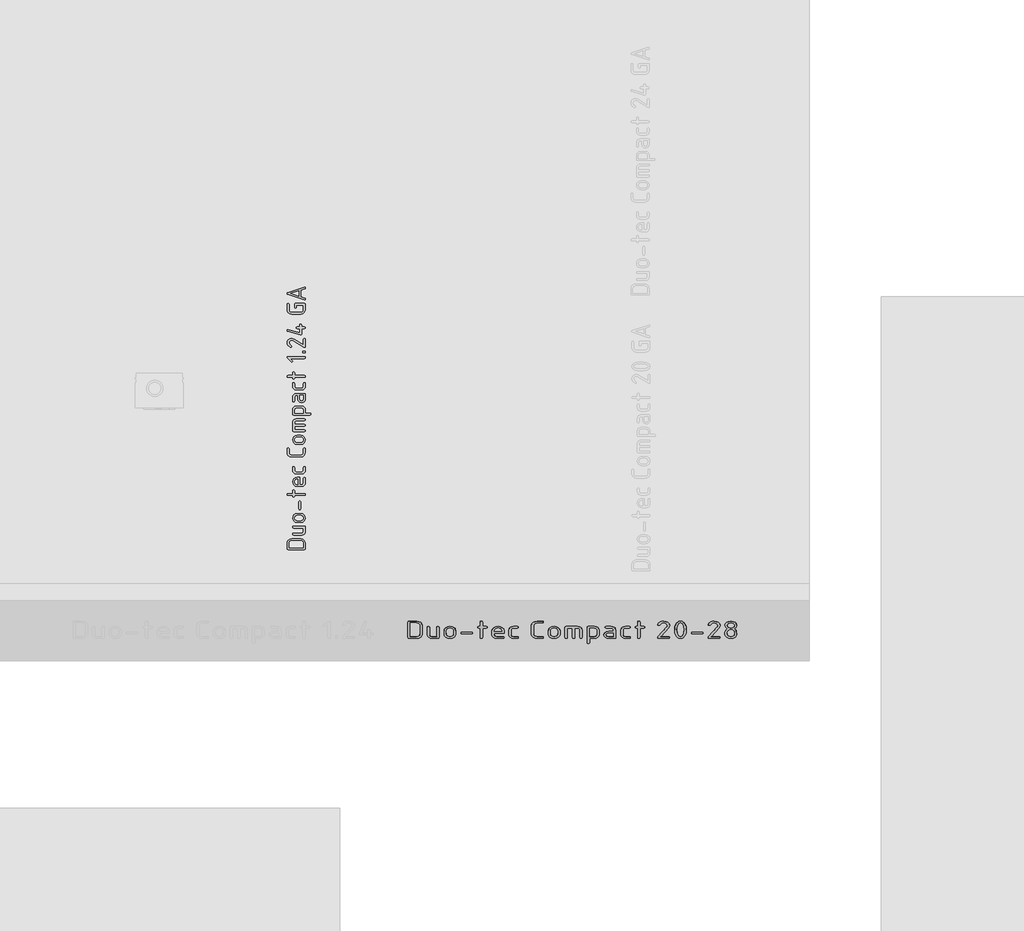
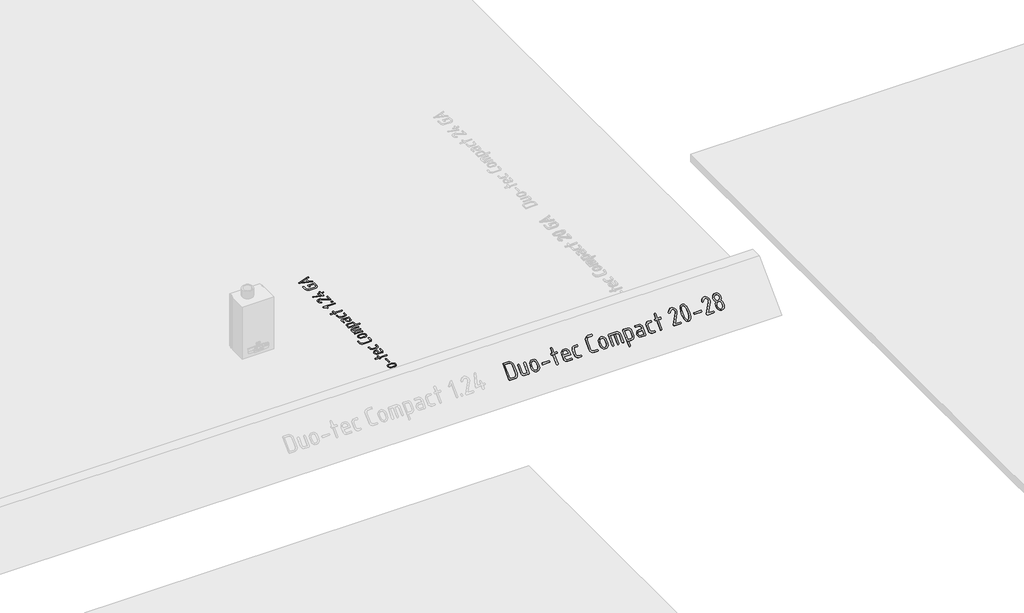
# One storey, part 26 of 37: 2 proxies.
"""IFC4 building model written with IfcOpenShell, lengths in millimetres."""

from ifc_helpers import new_model, si_unit, frame, origin, place, context, project, spatial, polyline, outline, extrude, element, save

model = new_model("IFC4")

# Units and contexts
model_context = context("Model", 3, world=origin())
ifc_project = project(units=[si_unit("LENGTHUNIT", "METRE", prefix="MILLI")], contexts=[model_context])

# Site, building, storey
site = spatial("IfcSite", under=ifc_project)
building = spatial("IfcBuilding", under=site)
storey = spatial("IfcBuildingStorey", under=building, Name="01_Стартовый вид_Площадка", Elevation=0.0)

# Proxies
placement = place(None, origin())
element("IfcBuildingElementProxy", 1, Name="150 мм", ObjectType="150 мм", at=placement, inside=storey, context=model_context, shape_type="SweptSolid", body=[
    extrude(outline(polyline([(22920.5171625, -4358.8892269), (22914.8540229, -4357.0214895), (22912.9663097, -4351.4182773), (22912.9663097, -4306.672483), (22915.6930065, -4292.2000151), (22923.8730971, -4280.1845708), (22936.028372, -4272.0943714), (22950.680622, -4269.3976383), (23026.1092468, -4269.3976383), (23040.6116783, -4272.1243351), (23052.796917, -4280.3044256), (23061.0668986, -4292.3498336), (23063.8235591, -4306.672483), (23063.8235591, -4351.4182773), (23061.9358459, -4357.0214895), (23056.2727063, -4358.8892269), (22920.5171625, -4358.8892269)]), holes=[polyline([(22928.3077249, -4343.5478117), (23048.4821439, -4343.5478117), (23048.4821439, -4306.7923378), (23046.8341403, -4298.3176042), (23041.8901296, -4291.1912372), (23034.6089501, -4286.3520994), (23025.9494404, -4284.7390534), (22950.8404285, -4284.7390534), (22942.1809187, -4286.3520994), (22934.8997392, -4291.1912372), (22929.9557285, -4298.3176042), (22928.3077249, -4306.7923378), (22928.3077249, -4343.5478117)])]), frame((0.0, 0.0, -10.0), z_axis=(0.0, 0.0, 1.0), x_axis=(1.0, 0.0, 0.0)), (0.0, 0.0, 1.0), 10.0),
    extrude(outline(polyline([(22966.4615049, -4164.5646344), (23056.3526095, -4164.5646344), (23061.9558217, -4166.4223839), (23063.8235591, -4171.9956324), (23063.8235591, -4209.0707191), (23061.6561847, -4220.5667926), (23055.1540615, -4230.1252134), (23045.4957617, -4236.5674092), (23033.8598576, -4238.7148079), (22966.4615049, -4238.7148079), (22960.8582927, -4236.797131), (22958.9905553, -4231.0441003), (22960.8582927, -4225.2910696), (22966.4615049, -4223.3733927), (23033.5801964, -4223.3733927), (23044.0674919, -4219.0985712), (23048.4821439, -4208.8709611), (23048.4821439, -4179.9060496), (22966.4615049, -4179.9060496), (22960.8582927, -4177.9883727), (22958.9905553, -4172.235342), (22960.8582927, -4166.4823113), (22966.4615049, -4164.5646344)])), frame((0.0, 0.0, -10.0), z_axis=(0.0, 0.0, 1.0), x_axis=(1.0, 0.0, 0.0)), (0.0, 0.0, 1.0), 10.0),
    extrude(outline(polyline([(23026.388908, -4133.881804), (22996.4252064, -4133.881804), (22982.0326418, -4131.170089), (22969.9372942, -4123.034944), (22961.72724, -4111.0544574), (22958.9905553, -4096.8067173), (22961.6972763, -4082.4091587), (22969.8174394, -4070.4586357), (22981.8828233, -4062.4133818), (22996.4252064, -4059.7316306), (23026.388908, -4059.7316306), (23040.7814726, -4062.4433455), (23052.8768202, -4070.5784905), (23061.0868744, -4082.5589772), (23063.8235591, -4096.8067173), (23061.0868744, -4111.0544574), (23052.8768202, -4123.034944), (23040.7814726, -4131.170089), (23026.388908, -4133.881804)]), holes=[polyline([(23025.9494404, -4075.0730458), (22995.9457872, -4075.0730458), (22987.3162412, -4076.6661159), (22980.0450496, -4081.4453263), (22975.1010388, -4088.4718143), (22973.4530352, -4096.8067173), (22975.1010388, -4105.1416203), (22980.0450496, -4112.1681083), (22987.3162412, -4116.9473187), (22995.9457872, -4118.5403888), (23025.9494404, -4118.5403888), (23034.6588896, -4116.9623005), (23041.9300812, -4112.2280357), (23046.8441282, -4105.2165295), (23048.4821439, -4096.8067173), (23046.8341403, -4088.4718143), (23041.8901296, -4081.4453263), (23034.6089501, -4076.6661159), (23025.9494404, -4075.0730458)])]), frame((0.0, 0.0, -10.0), z_axis=(0.0, 0.0, 1.0), x_axis=(1.0, 0.0, 0.0)), (0.0, 0.0, 1.0), 10.0),
    extrude(outline(polyline([(23025.4700211, -3961.8901571), (23025.4700211, -4021.8974634), (23023.5523442, -4027.5306393), (23017.7993135, -4029.4083646), (23012.0462828, -4027.5306393), (23010.1286059, -4021.8974634), (23010.1286059, -3961.8901571), (23012.0462828, -3956.2569812), (23017.7993135, -3954.3792559), (23023.5523442, -3956.2569812), (23025.4700211, -3961.8901571)])), frame((0.0, 0.0, -10.0), z_axis=(0.0, 0.0, 1.0), x_axis=(1.0, 0.0, 0.0)), (0.0, 0.0, 1.0), 10.0),
    extrude(outline(polyline([(22974.3319705, -3908.8743811), (22974.3319705, -3916.3852823), (22972.4142936, -3922.0184582), (22966.6612629, -3923.8961835), (22960.9082322, -3922.0184582), (22958.9905553, -3916.3852823), (22958.9905553, -3908.8743811), (22920.6370173, -3908.8743811), (22914.8839866, -3906.9567042), (22912.9663097, -3901.2036735), (22914.8839866, -3895.4506428), (22920.6370173, -3893.5329659), (22958.9905553, -3893.5329659), (22958.9905553, -3871.0002623), (22960.9082322, -3865.3970502), (22966.6612629, -3863.5293128), (22972.4142936, -3865.3970502), (22974.3319705, -3871.0002623), (22974.3319705, -3893.5329659), (23056.3526095, -3893.5329659), (23061.9558217, -3895.4506428), (23063.8235591, -3901.2036735), (23061.9558217, -3906.9567042), (23056.3526095, -3908.8743811), (22974.3319705, -3908.8743811)])), frame((0.0, 0.0, -10.0), z_axis=(0.0, 0.0, 1.0), x_axis=(1.0, 0.0, 0.0)), (0.0, 0.0, 1.0), 10.0),
    extrude(outline(polyline([(23017.7993135, -3819.3827925), (23033.1407287, -3819.3827925), (23043.9476371, -3814.9481646), (23048.4821439, -3804.4009417), (23048.4821439, -3766.8863873), (23050.3998208, -3761.2532114), (23056.1528515, -3759.3754861), (23061.9058822, -3761.2532114), (23063.8235591, -3766.8863873), (23063.8235591, -3804.4009417), (23061.6561847, -3816.0568216), (23055.1540615, -3825.854952), (23045.4957617, -3832.5068937), (23033.8598576, -3834.7242077), (22996.4252064, -3834.7242077), (22982.0326418, -3831.9425774), (22969.9372942, -3823.5976865), (22961.72724, -3811.3575144), (22958.9905553, -3796.8900405), (22961.6473368, -3782.3126997), (22969.6176814, -3770.2223461), (22981.4633314, -3762.0872011), (22995.7460292, -3759.3754861), (23017.7993135, -3759.3754861), (23017.7993135, -3819.3827925)]), holes=[polyline([(22972.4542452, -3796.8900405), (22974.1022488, -3805.5195865), (22979.0462595, -3812.7907781), (22986.3174511, -3817.7347889), (22994.9469971, -3819.3827925), (23002.4578983, -3819.3827925), (23002.4578983, -3774.3972885), (22994.9469971, -3774.3972885), (22986.3174511, -3776.0452921), (22979.0462595, -3780.9893029), (22974.1022488, -3788.2604944), (22972.4542452, -3796.8900405)])]), frame((0.0, 0.0, -10.0), z_axis=(0.0, 0.0, 1.0), x_axis=(1.0, 0.0, 0.0)), (0.0, 0.0, 1.0), 10.0),
    extrude(outline(polyline([(22989.1540148, -3714.5497886), (23033.6600996, -3714.5497886), (23044.1074435, -3710.1151608), (23048.4821439, -3699.5679378), (23048.4821439, -3677.0352343), (23050.3998208, -3671.4320221), (23056.1528515, -3669.5642847), (23061.9058822, -3671.4320221), (23063.8235591, -3677.0352343), (23063.8235591, -3699.5679378), (23061.6561847, -3711.2238177), (23055.1540615, -3721.0219481), (23045.4957617, -3727.6738899), (23033.8598576, -3729.8912038), (22988.9542568, -3729.8912038), (22977.3183527, -3727.6738899), (22967.6600529, -3721.0219481), (22961.1579297, -3711.2238177), (22958.9905553, -3699.5679378), (22958.9905553, -3677.0352343), (22960.9082322, -3671.4320221), (22966.6612629, -3669.5642847), (22972.4142936, -3671.4320221), (22974.3319705, -3677.0352343), (22974.3319705, -3699.5679378), (22978.6667193, -3710.1750882), (22989.1540148, -3714.5497886)])), frame((0.0, 0.0, -10.0), z_axis=(0.0, 0.0, 1.0), x_axis=(1.0, 0.0, 0.0)), (0.0, 0.0, 1.0), 10.0),
    extrude(outline(polyline([(22912.9663097, -3521.4237442), (22914.8839866, -3515.7905683), (22920.6370173, -3513.912843), (22926.390048, -3515.7905683), (22928.3077249, -3521.4237442), (22928.3077249, -3551.4273973), (22929.9557285, -3560.1318526), (22934.8997392, -3567.3880624), (22942.1809187, -3572.2871276), (22950.8404285, -3573.9201493), (23025.9494404, -3573.9201493), (23034.6089501, -3572.2721457), (23041.8901296, -3567.328135), (23046.8341403, -3560.0569434), (23048.4821439, -3551.4273973), (23048.4821439, -3521.4237442), (23050.3998208, -3515.7905683), (23056.1528515, -3513.912843), (23061.9058822, -3515.7905683), (23063.8235591, -3521.4237442), (23063.8235591, -3551.4273973), (23061.0668986, -3565.8948712), (23052.796917, -3578.1350433), (23040.6116783, -3586.4799342), (23026.1092468, -3589.2615645), (22950.680622, -3589.2615645), (22936.1781905, -3586.4799342), (22923.9929519, -3578.1350433), (22915.7229702, -3565.8948712), (22912.9663097, -3551.4273973), (22912.9663097, -3521.4237442)])), frame((0.0, 0.0, -10.0), z_axis=(0.0, 0.0, 1.0), x_axis=(1.0, 0.0, 0.0)), (0.0, 0.0, 1.0), 10.0),
    extrude(outline(polyline([(23026.388908, -3484.4285606), (22996.4252064, -3484.4285606), (22982.0326418, -3481.7168457), (22969.9372942, -3473.5817007), (22961.72724, -3461.601214), (22958.9905553, -3447.3534739), (22961.6972763, -3432.9559153), (22969.8174394, -3421.0053923), (22981.8828233, -3412.9601385), (22996.4252064, -3410.2783872), (23026.388908, -3410.2783872), (23040.7814726, -3412.9901022), (23052.8768202, -3421.1252472), (23061.0868744, -3433.1057338), (23063.8235591, -3447.3534739), (23061.0868744, -3461.601214), (23052.8768202, -3473.5817007), (23040.7814726, -3481.7168457), (23026.388908, -3484.4285606)]), holes=[polyline([(23025.9494404, -3425.6198024), (22995.9457872, -3425.6198024), (22987.3162412, -3427.2128725), (22980.0450496, -3431.9920829), (22975.1010388, -3439.0185709), (22973.4530352, -3447.3534739), (22975.1010388, -3455.6883769), (22980.0450496, -3462.7148649), (22987.3162412, -3467.4940753), (22995.9457872, -3469.0871454), (23025.9494404, -3469.0871454), (23034.6588896, -3467.5090572), (23041.9300812, -3462.7747923), (23046.8441282, -3455.7632862), (23048.4821439, -3447.3534739), (23046.8341403, -3439.0185709), (23041.8901296, -3431.9920829), (23034.6089501, -3427.2128725), (23025.9494404, -3425.6198024)])]), frame((0.0, 0.0, -10.0), z_axis=(0.0, 0.0, 1.0), x_axis=(1.0, 0.0, 0.0)), (0.0, 0.0, 1.0), 10.0),
    extrude(outline(polyline([(22958.9905553, -3371.9248492), (22958.9905553, -3302.8884808), (22961.1579297, -3290.9878973), (22967.6600529, -3281.0948819), (22977.3183527, -3274.4279583), (22988.9542568, -3272.2056504), (23056.3526095, -3272.2056504), (23061.9558217, -3274.1233273), (23063.8235591, -3279.876358), (23061.9558217, -3285.6293887), (23056.3526095, -3287.5470656), (22989.2339181, -3287.5470656), (22978.6267677, -3291.9617176), (22974.3319705, -3302.8884808), (22974.3319705, -3318.229896), (23056.3526095, -3318.229896), (23061.9558217, -3320.1475729), (23063.8235591, -3325.9006036), (23061.9558217, -3331.6536343), (23056.3526095, -3333.5713112), (22974.3319705, -3333.5713112), (22974.3319705, -3364.2541416), (23056.3526095, -3364.2541416), (23061.9558217, -3366.1718185), (23063.8235591, -3371.9248492), (23061.9558217, -3377.6778799), (23056.3526095, -3379.5955568), (22966.4615049, -3379.5955568), (22960.8582927, -3377.6778799), (22958.9905553, -3371.9248492)])), frame((0.0, 0.0, -10.0), z_axis=(0.0, 0.0, 1.0), x_axis=(1.0, 0.0, 0.0)), (0.0, 0.0, 1.0), 10.0),
    extrude(outline(polyline([(22966.5414081, -3241.52282), (22960.8782685, -3239.6650705), (22958.9905553, -3234.091822), (22958.9905553, -3197.0167353), (22961.1579297, -3185.5206618), (22967.6600529, -3175.962241), (22977.3183527, -3169.5200452), (22988.9542568, -3167.3726466), (23033.8598576, -3167.3726466), (23045.4208524, -3169.5050633), (23055.0941341, -3175.9023136), (23061.6412029, -3185.3858251), (23063.8235591, -3196.7770257), (23063.8235591, -3226.1814048), (23102.1770971, -3226.1814048), (23107.9301278, -3228.0990817), (23109.8478047, -3233.8521124), (23107.9600915, -3239.6051431), (23102.2969519, -3241.52282), (22966.5414081, -3241.52282)]), holes=[polyline([(22974.3319705, -3226.1814048), (23048.4821439, -3226.1814048), (23048.4821439, -3197.2164933), (23044.1473951, -3186.9489316), (23033.6600996, -3182.7140618), (22989.1540148, -3182.7140618), (22978.6067919, -3186.8890042), (22974.3319705, -3197.2164933), (22974.3319705, -3226.1814048)])]), frame((0.0, 0.0, -10.0), z_axis=(0.0, 0.0, 1.0), x_axis=(1.0, 0.0, 0.0)), (0.0, 0.0, 1.0), 10.0),
    extrude(outline(polyline([(23063.8235591, -3107.8847111), (23061.6012513, -3119.5006394), (23054.9343277, -3129.178915), (23045.0413122, -3135.7110019), (23033.1407287, -3137.8883642), (23017.6794587, -3133.893204), (23006.2632884, -3123.1362352), (23002.4578983, -3107.8847111), (23002.4578983, -3077.8810579), (22988.3949344, -3077.8810579), (22978.3870581, -3082.1958309), (22974.3319705, -3092.8629087), (22974.3319705, -3122.8665618), (22972.4142936, -3128.4997377), (22966.6612629, -3130.377463), (22960.9082322, -3128.4997377), (22958.9905553, -3122.8665618), (22958.9905553, -3092.8629087), (22961.1579297, -3081.182059), (22967.6600529, -3071.3889226), (22977.3183527, -3064.7519627), (22988.9542568, -3062.5396427), (23056.3526095, -3062.5396427), (23061.9558217, -3064.4573196), (23063.8235591, -3070.2103503), (23063.8235591, -3107.8847111)]), holes=[polyline([(23017.7993135, -3077.8810579), (23017.7993135, -3107.8847111), (23022.273893, -3118.4918614), (23033.1407287, -3122.8665618), (23043.9476371, -3118.431934), (23048.4821439, -3107.8847111), (23048.4821439, -3077.8810579), (23017.7993135, -3077.8810579)])]), frame((0.0, 0.0, -10.0), z_axis=(0.0, 0.0, 1.0), x_axis=(1.0, 0.0, 0.0)), (0.0, 0.0, 1.0), 10.0),
    extrude(outline(polyline([(22989.1540148, -3016.5153971), (23033.6600996, -3016.5153971), (23044.1074435, -3012.0807693), (23048.4821439, -3001.5335463), (23048.4821439, -2979.0008428), (23050.3998208, -2973.3976306), (23056.1528515, -2971.5298932), (23061.9058822, -2973.3976306), (23063.8235591, -2979.0008428), (23063.8235591, -3001.5335463), (23061.6561847, -3013.1894262), (23055.1540615, -3022.9875567), (23045.4957617, -3029.6394984), (23033.8598576, -3031.8568123), (22988.9542568, -3031.8568123), (22977.3183527, -3029.6394984), (22967.6600529, -3022.9875567), (22961.1579297, -3013.1894262), (22958.9905553, -3001.5335463), (22958.9905553, -2979.0008428), (22960.9082322, -2973.3976306), (22966.6612629, -2971.5298932), (22972.4142936, -2973.3976306), (22974.3319705, -2979.0008428), (22974.3319705, -3001.5335463), (22978.6667193, -3012.1406967), (22989.1540148, -3016.5153971)])), frame((0.0, 0.0, -10.0), z_axis=(0.0, 0.0, 1.0), x_axis=(1.0, 0.0, 0.0)), (0.0, 0.0, 1.0), 10.0),
    extrude(outline(polyline([(22974.3319705, -2927.0238085), (22974.3319705, -2934.5347097), (22972.4142936, -2940.1678856), (22966.6612629, -2942.0456108), (22960.9082322, -2940.1678856), (22958.9905553, -2934.5347097), (22958.9905553, -2927.0238085), (22920.6370173, -2927.0238085), (22914.8839866, -2925.1061316), (22912.9663097, -2919.3531009), (22914.8839866, -2913.6000702), (22920.6370173, -2911.6823933), (22958.9905553, -2911.6823933), (22958.9905553, -2889.1496897), (22960.9082322, -2883.5464775), (22966.6612629, -2881.6787401), (22972.4142936, -2883.5464775), (22974.3319705, -2889.1496897), (22974.3319705, -2911.6823933), (23056.3526095, -2911.6823933), (23061.9558217, -2913.6000702), (23063.8235591, -2919.3531009), (23061.9558217, -2925.1061316), (23056.3526095, -2927.0238085), (22974.3319705, -2927.0238085)])), frame((0.0, 0.0, -10.0), z_axis=(0.0, 0.0, 1.0), x_axis=(1.0, 0.0, 0.0)), (0.0, 0.0, 1.0), 10.0),
    extrude(outline(polyline([(22938.6951414, -2771.052754), (22955.9941851, -2788.3118461), (22958.1515716, -2793.5455059), (22956.2738463, -2799.1786818), (22950.6406704, -2801.0564071), (22945.4070106, -2798.859069), (22915.9227282, -2769.5345931), (22912.9663097, -2763.3820464), (22914.8540229, -2757.6290157), (22920.5171625, -2755.7113388), (23056.2727063, -2755.7113388), (23061.9358459, -2757.6290157), (23063.8235591, -2763.3820464), (23061.9358459, -2769.1350771), (23056.2727063, -2771.052754), (22938.6951414, -2771.052754)])), frame((0.0, 0.0, -10.0), z_axis=(0.0, 0.0, 1.0), x_axis=(1.0, 0.0, 0.0)), (0.0, 0.0, 1.0), 10.0),
    extrude(outline(polyline([(23048.4821439, -2725.0285084), (23042.7291132, -2723.1108315), (23040.8114363, -2717.3578008), (23042.7291132, -2711.6047701), (23048.4821439, -2709.6870932), (23056.1528515, -2709.6870932), (23061.9058822, -2711.6047701), (23063.8235591, -2717.3578008), (23061.9058822, -2723.1108315), (23056.1528515, -2725.0285084), (23048.4821439, -2725.0285084)])), frame((0.0, 0.0, -10.0), z_axis=(0.0, 0.0, 1.0), x_axis=(1.0, 0.0, 0.0)), (0.0, 0.0, 1.0), 10.0),
    extrude(outline(polyline([(22912.9663097, -2641.8492728), (22915.7179763, -2627.4217505), (22923.9729761, -2615.3014333), (22936.1332449, -2607.0763972), (22950.6007188, -2604.3347185), (22961.3976393, -2606.0426495), (22972.2944388, -2611.1664424), (23048.4821439, -2658.4291877), (23048.4821439, -2611.8456197), (23050.3998208, -2606.2124438), (23056.1528515, -2604.3347185), (23061.9058822, -2606.2124438), (23063.8235591, -2611.8456197), (23063.8235591, -2671.852926), (23061.9458338, -2677.4861019), (23056.3126579, -2679.3638272), (23051.9579333, -2678.0853759), (22963.3452799, -2623.1119715), (22950.8803801, -2619.3565209), (22942.2158764, -2621.0045245), (22934.919715, -2625.9485352), (22929.9607224, -2633.2197268), (22928.3077249, -2641.8492728), (22933.0220139, -2654.084451), (22947.1648811, -2665.3807665), (22950.8004769, -2671.852926), (22948.9227516, -2677.4861019), (22943.2895757, -2679.3638272), (22940.2133023, -2678.6446984), (22919.7780578, -2662.4742874), (22914.6692467, -2652.7186056), (22912.9663097, -2641.8492728)])), frame((0.0, 0.0, -10.0), z_axis=(0.0, 0.0, 1.0), x_axis=(1.0, 0.0, 0.0)), (0.0, 0.0, 1.0), 10.0),
    extrude(outline(polyline([(23025.6298275, -2575.569565), (23023.5922958, -2575.3298554), (22918.4396792, -2545.3262022), (22914.3346521, -2542.7093723), (22912.9663097, -2538.0550106), (22914.8340471, -2532.4218348), (22920.4372593, -2530.5441095), (22922.5946458, -2530.9036739), (23017.7993135, -2558.1506665), (23017.7993135, -2523.0332083), (22995.26661, -2523.0332083), (22989.6633978, -2521.1155314), (22987.7956604, -2515.3625007), (22989.6633978, -2509.60947), (22995.26661, -2507.6917931), (23017.7993135, -2507.6917931), (23017.7993135, -2492.6699907), (23019.7169904, -2487.0667785), (23025.4700211, -2485.1990411), (23031.2230518, -2487.0667785), (23033.1407287, -2492.6699907), (23033.1407287, -2507.6917931), (23056.1528515, -2507.6917931), (23061.9058822, -2509.60947), (23063.8235591, -2515.3625007), (23061.9058822, -2521.1155314), (23056.1528515, -2523.0332083), (23033.1407287, -2523.0332083), (23033.1407287, -2568.0586638), (23031.2630034, -2573.6918397), (23025.6298275, -2575.569565)])), frame((0.0, 0.0, -10.0), z_axis=(0.0, 0.0, 1.0), x_axis=(1.0, 0.0, 0.0)), (0.0, 0.0, 1.0), 10.0),
    extrude(outline(polyline([(23048.4821439, -2365.4640897), (23048.4821439, -2328.7086158), (22989.6733857, -2328.7086158), (22989.6733857, -2343.7304181), (22987.7557088, -2349.3336303), (22982.0026781, -2351.2013677), (22976.2496474, -2349.3336303), (22974.3319705, -2343.7304181), (22974.3319705, -2321.0379082), (22976.1997079, -2315.2848775), (22981.8029201, -2313.3672006), (23056.3526095, -2313.3672006), (23061.9558217, -2315.234938), (23063.8235591, -2320.8381502), (23063.8235591, -2365.5839445), (23061.0668986, -2379.9065938), (23052.796917, -2391.9520019), (23040.6116783, -2400.1320924), (23026.1092468, -2402.8587892), (22950.680622, -2402.8587892), (22936.1781905, -2400.1320924), (22923.9929519, -2391.9520019), (22915.7229702, -2379.9065938), (22912.9663097, -2365.5839445), (22912.9663097, -2320.8381502), (22914.8839866, -2315.234938), (22920.6370173, -2313.3672006), (22926.390048, -2315.2249501), (22928.3077249, -2320.7981986), (22928.3077249, -2365.2643317), (22929.9557285, -2373.8888838), (22934.8997392, -2381.0651903), (22942.1809187, -2385.9043281), (22950.8404285, -2387.517374), (23025.9494404, -2387.517374), (23034.6588896, -2385.914316), (23041.9300812, -2381.1051419), (23046.8441282, -2373.9887628), (23048.4821439, -2365.4640897)])), frame((0.0, 0.0, -10.0), z_axis=(0.0, 0.0, 1.0), x_axis=(1.0, 0.0, 0.0)), (0.0, 0.0, 1.0), 10.0),
    extrude(outline(polyline([(23056.2727063, -2178.0111727), (23061.9358459, -2179.888898), (23063.8235591, -2185.5220739), (23062.5151442, -2190.0465929), (23058.5898993, -2192.6734107), (23025.4700211, -2203.4603433), (23025.4700211, -2257.5548125), (23058.5898993, -2268.3816966), (23062.5151442, -2271.0085145), (23063.8235591, -2275.5330334), (23061.9358459, -2281.1662093), (23056.2727063, -2283.0439346), (23053.8756102, -2282.6843702), (22919.0389532, -2238.0184791), (22914.4844706, -2235.1219879), (22912.9663097, -2230.5075779), (22914.4245432, -2225.9530952), (22918.7992436, -2223.1564831), (23053.8756102, -2178.3707371), (23056.2727063, -2178.0111727)]), holes=[polyline([(22943.9687529, -2230.5075779), (23010.1286059, -2252.5608622), (23010.1286059, -2208.4942451), (22943.9687529, -2230.5075779)])]), frame((0.0, 0.0, -10.0), z_axis=(0.0, 0.0, 1.0), x_axis=(1.0, 0.0, 0.0)), (0.0, 0.0, 1.0), 10.0),
])
element("IfcBuildingElementProxy", 2, Name="200мм", ObjectType="200мм", at=placement, inside=storey, context=model_context, shape_type="SweptSolid", body=[
    extrude(outline(polyline([(181.0073918, 0.0), (188.5582446, -2.4903165), (191.0751956, -9.9612661), (191.0751956, -69.6223252), (187.4395998, -88.918949), (176.5328124, -104.9395415), (160.3257792, -115.726474), (140.7894457, -119.3221182), (40.2179461, -119.3221182), (20.8813707, -115.6865224), (4.6343859, -104.7797351), (-6.3922563, -88.719191), (-10.0678037, -69.6223252), (-10.0678037, -9.9612661), (-7.5508528, -2.4903165), (0.0, 0.0), (181.0073918, 0.0)]), holes=[polyline([(170.6199753, -20.4552203), (10.3874166, -20.4552203), (10.3874166, -69.4625188), (12.5847547, -80.7621636), (19.176769, -90.2639863), (28.8850083, -96.71617), (40.4310213, -98.866898), (140.5763706, -98.866898), (152.1223835, -96.71617), (161.8306228, -90.2639863), (168.4226372, -80.7621636), (170.6199753, -69.4625188), (170.6199753, -20.4552203)])]), frame((23916.6756706, -5082.7027413, 84.7245958), z_axis=(0.0, -0.7071067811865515, 0.7071067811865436), x_axis=(0.0, 0.7071067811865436, 0.7071067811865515)), (0.0, 0.0, 1.0), 10.0),
    extrude(outline(polyline([(7.8963813, 0.0), (121.2937942, -38.8098098), (127.5601635, -43.5725011), (127.5101016, -51.4095223), (111.5032112, -98.1796553), (103.8057301, -111.7461768), (91.4765407, -120.9968588), (76.511249, -124.9537749), (60.9054606, -122.6389989), (-24.1173996, -93.540266), (-30.3578956, -88.7019763), (-30.230214, -80.6381603), (-25.39024, -74.1871075), (-17.4938587, -74.1871075), (67.1762096, -103.1650988), (82.2515298, -102.3002329), (92.2362967, -91.3041202), (104.7416798, -54.7649538), (1.2728404, -19.3531585), (-4.9676556, -14.5148688), (-4.8399741, -6.4510528), (0.0, 0.0), (7.8963813, 0.0)])), frame((24173.2182248, -4992.7451694, 174.6821677), z_axis=(0.0, -0.7071067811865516, 0.7071067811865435), x_axis=(0.32380687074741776, -0.6690101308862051, -0.669010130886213)), (0.0, 0.0, 1.0), 10.0),
    extrude(outline(polyline([(19.5277269, 0.0), (58.788553, -7.3971647), (76.977393, -14.5033742), (90.8173496, -28.1486773), (98.6171829, -45.8732873), (98.6856532, -65.2174179), (91.5847543, -83.4140342), (77.9948347, -97.0679287), (60.19967, -104.6308689), (40.4830361, -104.5546223), (1.2222101, -97.1574576), (-16.96663, -90.0512481), (-30.8065866, -76.405945), (-38.6064199, -58.6813349), (-38.6748903, -39.3372044), (-31.5717163, -21.3442893), (-17.856617, -7.6733255), (0.0, 0.0), (19.5277269, 0.0)]), holes=[polyline([(5.5853838, -77.1644064), (44.8985576, -84.5714339), (56.5989581, -84.6144501), (67.3060997, -80.1473936), (75.5187712, -72.1612621), (79.7357612, -61.647053), (79.6340604, -50.3191559), (74.8906592, -39.8919599), (66.5432132, -31.8348129), (55.6293778, -27.6170623), (16.316204, -20.2100347), (4.5148066, -20.1276624), (-6.1812392, -24.5358276), (-14.3509512, -32.5097259), (-18.5733473, -43.1245527), (-18.4716465, -54.4524499), (-13.7282453, -64.8796457), (-5.3677123, -72.9392586), (5.5853838, -77.1644064)])]), frame((24220.3011878, -5068.0974661, 99.329871), z_axis=(0.0, -0.7071067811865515, 0.7071067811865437), x_axis=(-0.18515314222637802, 0.6948806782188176, 0.6948806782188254)), (0.0, 0.0, 1.0), 10.0),
    extrude(outline(polyline([(7.934191, 0.0), (83.6754055, -25.7842432), (89.9616023, -30.6252263), (89.8596755, -38.6935314), (85.0176196, -45.1481755), (77.0834285, -45.1481756), (1.3422141, -19.3639324), (-4.9439827, -14.5229492), (-4.8420561, -6.4546441), (0.0, 0.0), (7.934191, 0.0)])), frame((24453.5186649, -5051.8536881, 115.5736491), z_axis=(0.0, -0.7071067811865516, 0.7071067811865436), x_axis=(-0.9466499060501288, -0.22787491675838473, -0.22787491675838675)), (0.0, 0.0, 1.0), 10.0),
    extrude(outline(polyline([(109.3608521, 0.0), (109.3608521, 10.0145349), (111.9177547, 17.5254361), (119.5884622, 20.0290698), (127.2591698, 17.5254361), (129.8160723, 10.0145349), (129.8160723, 0.0), (180.954123, 0.0), (188.6248306, -2.5569025), (191.1817332, -10.2276101), (188.6248306, -17.8983177), (180.954123, -20.4552203), (129.8160723, -20.4552203), (129.8160723, -50.498825), (127.2591698, -57.9697746), (119.5884622, -60.4600911), (111.9177547, -57.9697746), (109.3608521, -50.498825), (109.3608521, -20.4552203), (0.0, -20.4552203), (-7.4709496, -17.8983177), (-9.9612662, -10.2276101), (-7.4709496, -2.5569025), (0.0, 0.0), (109.3608521, 0.0)])), frame((24516.695465, -5082.7780748, 84.6492624), z_axis=(0.0, -0.7071067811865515, 0.7071067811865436), x_axis=(0.0, 0.7071067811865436, 0.7071067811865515)), (0.0, 0.0, 1.0), 10.0),
    extrude(outline(polyline([(80.0097418, 0.0), (80.0097418, 20.4552203), (74.0969047, 34.8644314), (67.6247451, 39.3989382), (60.0339408, 40.9104405), (10.014535, 40.9104405), (2.5036338, 43.467343), (0.0, 51.1380507), (2.5036338, 58.8087582), (10.014535, 61.3656608), (60.0339408, 61.3656608), (75.575114, 58.4758283), (88.6392878, 49.8063306), (97.5085435, 36.9285975), (100.4649621, 21.4140587), (100.4649621, -28.4988095), (96.7561217, -47.6888956), (85.6296005, -63.8160257), (69.309371, -74.7627647), (50.0194058, -78.4116777), (30.5829514, -74.8693023), (14.46248, -64.2421762), (3.61562, -48.4479761), (0.0, -29.4043792), (0.0, 0.0), (80.0097418, 0.0)]), holes=[polyline([(50.0194058, -60.4600912), (61.5254672, -58.262753), (71.2203893, -51.6707387), (77.8124037, -41.9758166), (80.0097418, -30.4697552), (80.0097418, -20.4552203), (20.0290699, -20.4552203), (20.0290699, -30.4697552), (22.226408, -41.9758166), (28.8184223, -51.6707387), (38.5133444, -58.262753), (50.0194058, -60.4600912)])]), frame((24716.027325, -5046.4296787, 120.9976584), z_axis=(0.0, -0.7071067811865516, 0.7071067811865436), x_axis=(-1.0, 0.0, 0.0)), (0.0, 0.0, 1.0), 10.0),
    extrude(outline(polyline([(15.1508781, 0.0), (69.9183341, 22.8458531), (80.4980469, 33.6657617), (80.467285, 48.8903841), (68.9008028, 76.6182523), (68.3843818, 84.4977287), (74.505091, 89.749238), (82.5432933, 90.4040175), (87.7793515, 84.4933041), (99.3458337, 56.7654358), (102.6619406, 41.3096074), (99.6902548, 25.9147409), (91.2197, 12.7713241), (78.0392002, 4.0698442), (22.7801153, -18.9810884), (7.3232335, -22.2254877), (-7.9764677, -18.9976633), (-21.0073015, -10.2781336), (-29.6575817, 2.9525825), (-41.2240639, 30.6804508), (-41.7404849, 38.5599271), (-35.6197758, 43.8114365), (-27.5815735, 44.4662159), (-22.3455153, 38.5555025), (-10.7790331, 10.8276342), (0.0, 0.0), (15.1508781, 0.0)])), frame((24781.6278556, -5009.535115, 157.8922221), z_axis=(0.0, -0.7071067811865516, 0.7071067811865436), x_axis=(-0.3849898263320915, -0.652603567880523, -0.6526035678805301)), (0.0, 0.0, 1.0), 10.0),
    extrude(outline(polyline([(40.0048709, 0.0), (47.5157721, -2.5569025), (50.0194058, -10.2276102), (47.5157721, -17.8983177), (40.0048709, -20.4552203), (0.0, -20.4552203), (-11.6059404, -22.6525584), (-21.2808867, -29.2445727), (-27.8129737, -38.9528121), (-29.990336, -50.498825), (-29.990336, -150.6441742), (-27.7929979, -162.1901873), (-21.2009835, -171.8984266), (-11.5060614, -178.4904408), (0.0, -180.687779), (40.0048709, -180.687779), (47.5157721, -183.2446815), (50.0194058, -190.9153891), (47.5157721, -198.5860967), (40.0048709, -201.1429993), (0.0, -201.1429993), (-19.2899652, -197.4674519), (-35.6101947, -186.4408097), (-46.7367158, -170.1938249), (-50.4455562, -150.8572495), (-50.4455562, -50.2857498), (-46.7367158, -30.9491744), (-35.6101947, -14.7021896), (-19.2899652, -3.6755474), (0.0, 0.0), (40.0048709, 0.0)])), frame((24993.2914434, -4947.5921748, 219.8351623), z_axis=(0.0, -0.7071067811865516, 0.7071067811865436), x_axis=(1.0, 0.0, 0.0)), (0.0, 0.0, 1.0), 10.0),
    extrude(outline(polyline([(19.5277269, 0.0), (58.788553, -7.3971647), (76.977393, -14.5033742), (90.8173496, -28.1486773), (98.6171829, -45.8732873), (98.6856532, -65.2174179), (91.5847543, -83.4140342), (77.9948347, -97.0679287), (60.19967, -104.6308689), (40.4830361, -104.5546223), (1.2222101, -97.1574576), (-16.96663, -90.0512481), (-30.8065866, -76.405945), (-38.6064199, -58.6813349), (-38.6748903, -39.3372044), (-31.5717163, -21.3442893), (-17.856617, -7.6733255), (0.0, 0.0), (19.5277269, 0.0)]), holes=[polyline([(5.5853838, -77.1644064), (44.8985576, -84.5714339), (56.5989581, -84.6144501), (67.3060997, -80.1473937), (75.5187712, -72.1612621), (79.7357612, -61.647053), (79.6340604, -50.3191559), (74.8906592, -39.8919599), (66.5432132, -31.8348129), (55.6293778, -27.6170623), (16.316204, -20.2100347), (4.5148066, -20.1276624), (-6.1812392, -24.5358276), (-14.3509512, -32.5097259), (-18.5733473, -43.1245527), (-18.4716465, -54.4524499), (-13.7282453, -64.8796458), (-5.3677123, -72.9392586), (5.5853838, -77.1644064)])]), frame((25086.2388456, -5068.0974661, 99.329871), z_axis=(0.0, -0.7071067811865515, 0.7071067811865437), x_axis=(-0.18515314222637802, 0.6948806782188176, 0.6948806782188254)), (0.0, 0.0, 1.0), 10.0),
    extrude(outline(polyline([(8.0648268, 0.0), (95.6150095, -28.42341), (109.8146858, -36.0716859), (119.6837275, -48.3906321), (124.1620709, -63.3839268), (122.1896524, -79.0552479), (94.4406404, -164.5281404), (89.7017561, -170.8444537), (81.6369293, -170.8444538), (75.110059, -166.1072187), (74.9850443, -158.2118271), (102.6189151, -73.0935939), (103.610512, -65.2736839), (101.3875032, -57.8242882), (96.4501456, -51.7058984), (89.2986962, -47.8790062), (69.8431, -41.5626928), (36.0738519, -145.5792004), (31.3349677, -151.8955137), (23.2701408, -151.8955138), (16.7432705, -147.1582787), (16.6182558, -139.2628871), (50.3875039, -35.2463795), (11.4763116, -22.6137528), (-22.2929365, -126.6302604), (-27.0318208, -132.9465737), (-35.0966477, -132.9465738), (-41.6235179, -128.2093387), (-41.7485327, -120.3139471), (-4.7388842, -6.3163133), (0.0, 0.0), (8.0648268, 0.0)])), frame((25224.9574666, -4992.7451694, 174.6821677), z_axis=(0.0, -0.7071067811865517, 0.7071067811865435), x_axis=(0.9511311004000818, 0.21834563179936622, 0.21834563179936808)), (0.0, 0.0, 1.0), 10.0),
    extrude(outline(polyline([(181.0073918, 0.0), (188.5582446, -2.4769993), (191.0751955, -9.9079973), (191.0751955, -59.3414462), (188.1853629, -74.6695442), (179.5158653, -87.4141053), (166.6381322, -96.0036998), (151.1235935, -98.8668979), (91.2494592, -98.8668979), (75.8347993, -96.0236756), (62.9370905, -87.4940085), (54.2076654, -74.8493265), (51.297857, -59.6610591), (51.297857, -20.4552202), (0.1598064, -20.4552202), (-7.5109012, -17.8983177), (-10.0678037, -10.2276101), (-7.5508528, -2.5569025), (0.0, 0.0), (181.0073918, 0.0)]), holes=[polyline([(170.6199752, -20.4552202), (71.7530773, -20.4552202), (71.7530773, -59.0751022), (77.5327424, -72.7651845), (91.5158032, -78.4116776), (150.8572494, -78.4116776), (164.9202134, -72.8450878), (170.6199752, -59.0751022), (170.6199752, -20.4552202)])]), frame((25406.4975465, -5126.0948162, 41.332521), z_axis=(0.0, -0.7071067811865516, 0.7071067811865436), x_axis=(0.0, 0.7071067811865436, 0.7071067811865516)), (0.0, 0.0, 1.0), 10.0),
    extrude(outline(polyline([(50.232481, 0.0), (65.7203854, -2.9630772), (78.6247528, -11.8523086), (87.3342021, -25.0429959), (90.2373519, -40.9104406), (84.9104716, -61.5254672), (70.5678464, -76.7470277), (50.232481, -81.8208811), (10.2276101, -81.8208811), (10.2276101, -100.5714997), (15.9806408, -113.9153348), (30.2034111, -119.3221182), (70.208282, -119.3221182), (77.7191832, -121.8790208), (80.2228169, -129.5497284), (77.7191832, -137.220436), (70.208282, -139.7773385), (30.2034111, -139.7773385), (14.6289449, -136.8875059), (1.5714296, -128.2180083), (-7.2778502, -115.3402752), (-10.2276102, -99.8257365), (-10.2276102, -9.9612662), (-7.6707076, -2.4903166), (0.0, 0.0), (50.232481, 0.0)]), holes=[polyline([(10.2276101, -61.3656608), (50.232481, -61.3656608), (57.9231644, -59.8741343), (64.3753481, -55.3995549), (68.7500485, -48.7942234), (70.208282, -40.9104406), (64.2954449, -26.5012294), (57.8232854, -21.9667226), (50.232481, -20.4552203), (10.2276101, -20.4552203), (10.2276101, -61.3656608)])]), frame((25634.9141727, -5089.8217536, 77.6055835), z_axis=(0.0, -0.7071067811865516, 0.7071067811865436), x_axis=(-1.0, 0.0, 0.0)), (0.0, 0.0, 1.0), 10.0),
    extrude(outline(polyline([(15.1508781, 0.0), (69.9183341, 22.8458531), (80.4980469, 33.6657617), (80.467285, 48.8903841), (68.9008028, 76.6182523), (68.3843818, 84.4977286), (74.505091, 89.749238), (82.5432933, 90.4040174), (87.7793515, 84.4933041), (99.3458337, 56.7654358), (102.6619406, 41.3096074), (99.6902548, 25.9147409), (91.2197, 12.771324), (78.0392002, 4.0698442), (22.7801153, -18.9810884), (7.3232335, -22.2254878), (-7.9764677, -18.9976633), (-21.0073015, -10.2781336), (-29.6575817, 2.9525825), (-41.2240639, 30.6804508), (-41.7404849, 38.5599271), (-35.6197758, 43.8114365), (-27.5815735, 44.4662158), (-22.3455153, 38.5555025), (-10.7790331, 10.8276342), (0.0, 0.0), (15.1508781, 0.0)])), frame((25712.3403776, -5009.535115, 157.8922221), z_axis=(0.0, -0.7071067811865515, 0.7071067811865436), x_axis=(-0.384989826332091, -0.6526035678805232, -0.6526035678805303)), (0.0, 0.0, 1.0), 10.0),
    extrude(outline(polyline([(109.3608521, 0.0), (109.3608521, 10.014535), (111.9177547, 17.5254361), (119.5884622, 20.0290699), (127.2591698, 17.5254361), (129.8160723, 10.014535), (129.8160723, 0.0), (180.954123, 0.0), (188.6248306, -2.5569025), (191.1817332, -10.2276101), (188.6248306, -17.8983177), (180.954123, -20.4552202), (129.8160723, -20.4552202), (129.8160723, -50.498825), (127.2591698, -57.9697746), (119.5884622, -60.4600911), (111.9177547, -57.9697746), (109.3608521, -50.498825), (109.3608521, -20.4552202), (0.0, -20.4552202), (-7.4709496, -17.8983177), (-9.9612662, -10.2276101), (-7.4709496, -2.5569025), (0.0, 0.0), (109.3608521, 0.0)])), frame((25825.8295619, -5082.7780748, 84.6492624), z_axis=(0.0, -0.7071067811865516, 0.7071067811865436), x_axis=(0.0, 0.7071067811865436, 0.7071067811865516)), (0.0, 0.0, 1.0), 10.0),
    extrude(outline(polyline([(14.6692354, 0.0), (33.1062033, -6.6022305), (47.3681923, -19.9776427), (55.6930956, -37.6934158), (56.3188067, -57.3167297), (51.840737, -71.1866425), (42.8424615, -84.4831552), (-35.138713, -175.0883818), (26.2241518, -184.7023202), (33.2487615, -188.3909846), (34.5349086, -196.3567717), (30.8741352, -203.5475071), (23.0579834, -204.9110167), (-55.9874909, -192.526681), (-63.0203458, -188.8906432), (-64.3312286, -181.0827366), (-61.7484405, -175.6102613), (28.9539758, -70.2294251), (36.4734082, -54.5849108), (36.0907364, -42.8313548), (31.0839533, -32.2000358), (22.5293124, -24.1671006), (11.503067, -20.2086964), (-5.5868318, -23.8935588), (-23.3858749, -40.192112), (-32.6617347, -43.6454248), (-39.6945896, -40.0093871), (-41.0054724, -32.2014805), (-39.423307, -28.29763), (-27.0462713, -14.148815), (-13.9051689, -4.7162716), (0.0, 0.0), (14.6692354, 0.0)])), frame((26027.9280703, -4949.1977193, 218.2296179), z_axis=(0.0, -0.7071067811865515, 0.7071067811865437), x_axis=(0.9879481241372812, 0.10944976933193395, 0.10944976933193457)), (0.0, 0.0, 1.0), 10.0),
    extrude(outline(polyline([(33.5896076, 1e-07), (66.8986549, -4.3323324), (95.063235, -12.6820124), (111.3579664, -21.0737201), (122.7383843, -31.0621998), (129.2044885, -42.6474517), (130.756279, -55.8294758), (127.5272211, -68.701894), (119.65078, -79.3583279), (107.1269555, -87.7987777), (89.9557478, -94.0232433), (60.9096188, -98.6679788), (27.200407, -98.6602332), (-6.2282447, -94.3201553), (-34.4326928, -85.9678933), (-50.6576551, -77.580704), (-61.9882378, -67.5954515), (-68.4244409, -56.012136), (-69.9662645, -42.8307573), (-66.7272396, -29.9589846), (-58.8208973, -19.3044871), (-46.2472378, -10.8672646), (-29.0062609, -4.6473172), (0.0, 0.0), (33.5896076, 1e-07)]), holes=[polyline([(32.267704, -20.412462), (-14.8413308, -22.4862152), (-40.3558735, -30.709274), (-46.9944147, -36.7784264), (-49.5538025, -44.1526609), (-47.9524236, -51.7262833), (-42.1189924, -58.553072), (-17.7559727, -69.9661482), (28.5223105, -78.2477711), (75.6313453, -76.1740181), (101.145888, -67.9509591), (107.7844292, -61.8818067), (110.3438169, -54.5075723), (108.7569234, -46.8648261), (102.9566205, -39.9901388), (78.715787, -28.5449399), (32.267704, -20.412462)])]), frame((26229.35406, -4995.0051733, 172.4221638), z_axis=(0.0, -0.7071067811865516, 0.7071067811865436), x_axis=(0.06462426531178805, -0.7056286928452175, -0.7056286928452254)), (0.0, 0.0, 1.0), 10.0),
    extrude(outline(polyline([(7.934191, 0.0), (83.6754055, -25.7842432), (89.9616023, -30.6252263), (89.8596755, -38.6935314), (85.0176196, -45.1481755), (77.0834285, -45.1481756), (1.3422141, -19.3639324), (-4.9439827, -14.5229492), (-4.8420561, -6.4546441), (0.0, 0.0), (7.934191, 0.0)])), frame((26369.4909629, -5051.8536881, 115.5736491), z_axis=(0.0, -0.7071067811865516, 0.7071067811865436), x_axis=(-0.946649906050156, -0.2278749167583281, -0.2278749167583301)), (0.0, 0.0, 1.0), 10.0),
    extrude(outline(polyline([(14.6692354, 0.0), (33.1062033, -6.6022305), (47.3681923, -19.9776427), (55.6930956, -37.6934158), (56.3188067, -57.3167297), (51.840737, -71.1866425), (42.8424615, -84.4831552), (-35.138713, -175.0883818), (26.2241518, -184.7023202), (33.2487615, -188.3909846), (34.5349086, -196.3567717), (30.8741352, -203.5475071), (23.0579834, -204.9110167), (-55.9874909, -192.526681), (-63.0203458, -188.8906432), (-64.3312286, -181.0827366), (-61.7484405, -175.6102613), (28.9539758, -70.2294251), (36.4734082, -54.5849108), (36.0907364, -42.8313548), (31.0839533, -32.2000358), (22.5293124, -24.1671006), (11.503067, -20.2086964), (-5.5868318, -23.8935588), (-23.3858749, -40.192112), (-32.6617347, -43.6454248), (-39.6945896, -40.0093871), (-41.0054724, -32.2014805), (-39.423307, -28.29763), (-27.0462713, -14.148815), (-13.9051689, -4.7162716), (0.0, 0.0), (14.6692354, 0.0)])), frame((26447.2600857, -4949.1977193, 218.2296179), z_axis=(0.0, -0.7071067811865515, 0.7071067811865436), x_axis=(0.9879481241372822, 0.10944976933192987, 0.10944976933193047)), (0.0, 0.0, 1.0), 10.0),
    extrude(outline(polyline([(19.3492934, 0.0), (37.3021898, -7.2172481), (50.8907264, -21.0775012), (58.4538498, -39.08911), (58.3305061, -58.7604252), (54.5055923, -78.5294091), (45.2021075, -99.6935114), (26.7831062, -114.1294511), (38.4882707, -134.3938309), (39.2261747, -157.5007466), (32.0032554, -175.7984321), (18.2676521, -189.6891516), (0.4899241, -197.4806427), (-18.8593693, -197.4806427), (-36.8122656, -190.2633946), (-50.4008023, -176.4031415), (-57.9639257, -158.3915327), (-57.8405819, -138.7202175), (-48.5370972, -117.5561151), (-30.1180959, -103.1201754), (-38.5930198, -89.0149671), (-41.7235021, -73.3666114), (-38.7362506, -39.9798961), (-31.5133313, -21.6822106), (-17.777728, -7.7914911), (0.0, 0.0), (19.3492934, 0.0)]), holes=[polyline([(15.4636667, -20.0827773), (4.0398768, -20.0970206), (-6.3831948, -24.7539323), (-14.4222394, -33.0732518), (-18.6939486, -44.0747184), (-22.4885059, -63.6868055), (-22.5887524, -75.3868557), (-18.1741217, -86.1157191), (-10.2282568, -94.3673553), (0.2651997, -98.6357236), (11.6877247, -98.6280176), (22.1070018, -93.9907179), (30.1422519, -85.6910106), (34.4126962, -74.6960812), (38.2072535, -55.0839941), (38.3473497, -43.2831408), (33.9915553, -32.5656611), (26.0577134, -24.3570436), (15.4636667, -20.0827773)]), polyline([(-3.4484071, -117.8294196), (-14.8709321, -117.8371255), (-25.2902091, -122.4744251), (-33.3254593, -130.7741326), (-37.5959036, -141.7690618), (-37.69615, -153.469112), (-33.2815193, -164.1979754), (-25.3356545, -172.4496115), (-14.8421979, -176.7179798), (-3.4196729, -176.7102738), (6.9996041, -172.0729742), (15.0348542, -163.7732668), (19.3052985, -152.7783375), (19.4441299, -140.9840215), (15.084541, -130.2861539), (7.1469044, -122.0971485), (-3.4484071, -117.8294196)])]), frame((26620.420317, -5087.2227491, 80.204588), z_axis=(0.0, -0.7071067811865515, 0.7071067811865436), x_axis=(-0.9817922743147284, -0.13432038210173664, -0.13432038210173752)), (0.0, 0.0, 1.0), 10.0),
])

save(model, "model.ifc")
